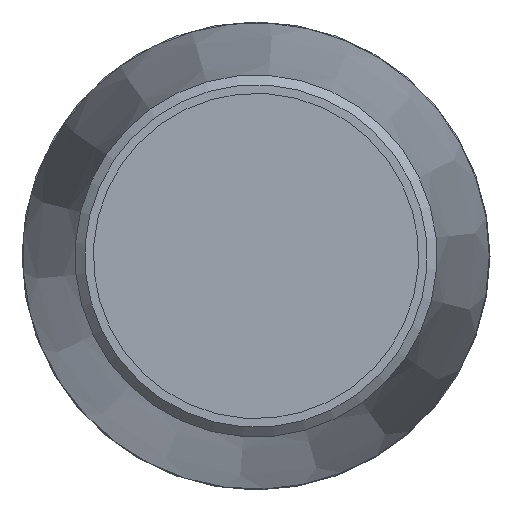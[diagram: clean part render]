
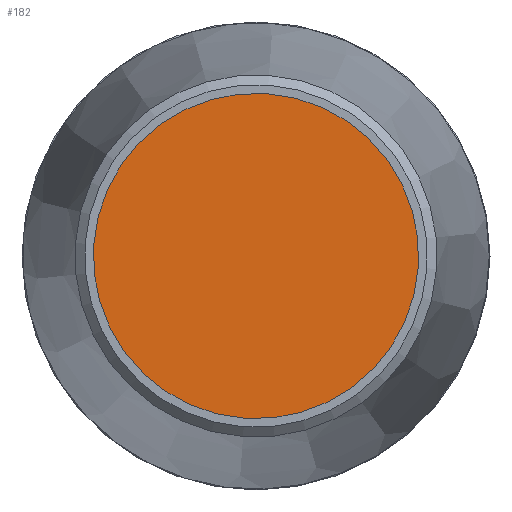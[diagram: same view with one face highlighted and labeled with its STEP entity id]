
A CAD part, left-side view. The second image highlights one B-rep face of the part: STEP entity #182.
In plain terms, the highlighted planar face has unit normal (-1, 0, 0).
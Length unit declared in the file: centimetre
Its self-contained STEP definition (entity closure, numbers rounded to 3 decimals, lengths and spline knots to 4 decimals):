
#20=PLANE('',#211);
#45=FACE_OUTER_BOUND('',#70,.T.);
#70=EDGE_LOOP('',(#140));
#88=CIRCLE('',#210,3.65);
#102=VERTEX_POINT('',#311);
#116=EDGE_CURVE('',#102,#102,#88,.T.);
#140=ORIENTED_EDGE('',*,*,#116,.T.);
#182=ADVANCED_FACE('',(#45),#20,.T.);
#210=AXIS2_PLACEMENT_3D('',#312,#263,#264);
#211=AXIS2_PLACEMENT_3D('',#313,#265,#266);
#263=DIRECTION('center_axis',(-1.,0.,0.));
#264=DIRECTION('ref_axis',(0.,0.962,-0.274));
#265=DIRECTION('center_axis',(-1.,0.,0.));
#266=DIRECTION('ref_axis',(0.,0.962,-0.274));
#311=CARTESIAN_POINT('',(-21.4,0.9997,3.5104));
#312=CARTESIAN_POINT('Origin',(-21.4,0.,0.));
#313=CARTESIAN_POINT('Origin',(-21.4,0.,0.));
